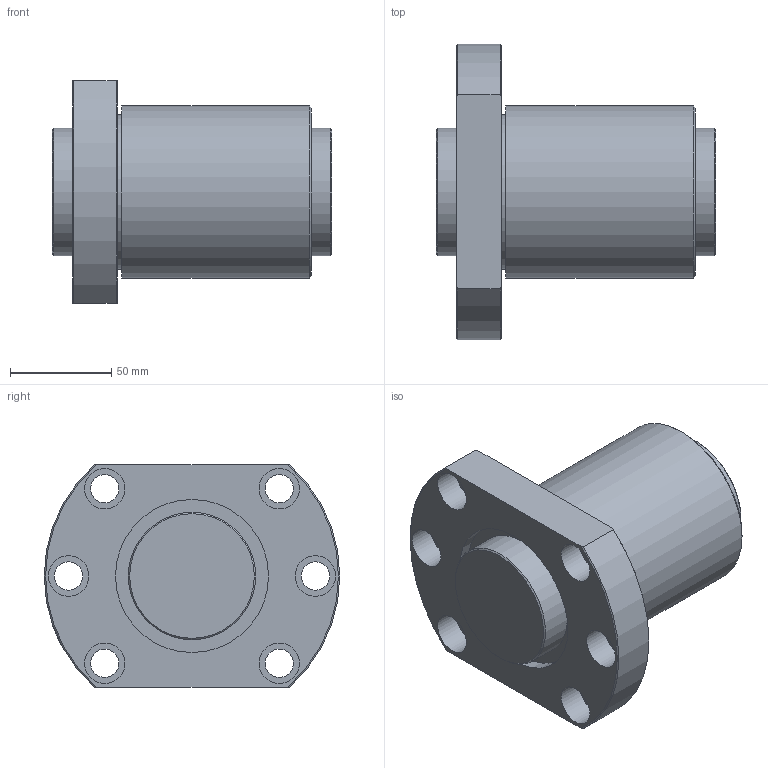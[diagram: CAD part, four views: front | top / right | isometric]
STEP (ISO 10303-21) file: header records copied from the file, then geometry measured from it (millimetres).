
FILE_DESCRIPTION(/* description */ ('STEP AP203'),/* implementation_level */ '2;1');
FILE_NAME(/* name */ 'DK6310-6RRG1+138LC0_000',/* time_stamp */ '2025-01-13T09:32:11+01:00',/* author */ ('License CC BY-ND 4.0'),/* organization */ ('CADENAS'),/* preprocessor_version */ 'ST-DEVELOPER v19.3',/* originating_system */ 'PARTsolutions',/* authorisation */ ' ');
FILE_SCHEMA (('CONFIG_CONTROL_DESIGN'));
Length unit declared in the file: millimetre
Products named in the file (3): DK6310-6RRG1+138LC0_000; DK 6310-6RR013800 Shaft; DK 6310-6RR0Nut
Assembly tree (2 placements, depth 2):
  DK6310-6RRG1+138LC0_000
    DK 6310-6RR013800 Shaft
    DK 6310-6RR0Nut
Bounding box: 138 x 146 x 110 mm (x, y, z)
Volume: 869139 mm3; surface area: 123273.1 mm2
Topology: 2 solids, 2 shells, 46 faces, 94 edges, 62 vertices
Faces by surface type: cylinder 21, plane 16, cone 9
Full cylindrical faces by diameter (mm): 8.566 x1, 14 x6, 20 x6, 63 x2, 75.6 x2, 76.5 x1, 85 x1
Entity records: 1222 total; most frequent: CARTESIAN_POINT 226, DIRECTION 204, ORIENTED_EDGE 134, AXIS2_PLACEMENT_3D 98, EDGE_LOOP 96, FACE_BOUND 96, EDGE_CURVE 67, VERTEX_POINT 59
